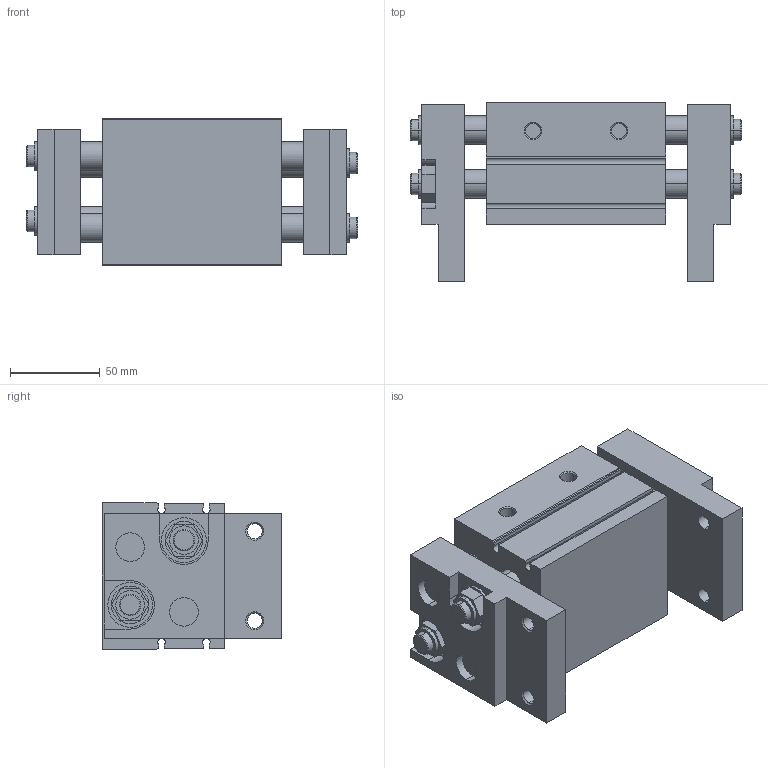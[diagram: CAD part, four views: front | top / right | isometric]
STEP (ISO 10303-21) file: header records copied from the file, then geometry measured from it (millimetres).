
FILE_DESCRIPTION (( 'STEP AP214' ), '1' );
FILE_NAME ('SFT32X60S_30_.STEP', '2026-03-22T03:54:28', ( '' ), ( '' ), 'SwSTEP 2.0', 'SolidWorks 2024', '' );
FILE_SCHEMA (( 'AUTOMOTIVE_DESIGN' ));
Length unit declared in the file: millimetre
Products named in the file (5): SFT32X60S(30)_dummy; SFT32X60S_rod_1; SFT32X60S_body_1; SFT32X60S_30_(2); SFT32X60S_30_
Assembly tree (4 placements, depth 3):
  SFT32X60S(30)_dummy
  SFT32X60S_30_
    SFT32X60S_30_(2)
      SFT32X60S_body_1
      SFT32X60S_rod_1  x2
Bounding box: 185 x 100 x 82 mm (x, y, z)
Volume: 835835 mm3; surface area: 147256.5 mm2
Topology: 3 solids, 3 shells, 252 faces, 589 edges, 382 vertices
Faces by surface type: plane 115, cylinder 105, cone 32
Entity records: 5062 total; most frequent: DIRECTION 921, CARTESIAN_POINT 835, ORIENTED_EDGE 798, EDGE_CURVE 399, AXIS2_PLACEMENT_3D 344, VERTEX_POINT 258, VECTOR 233, LINE 233
